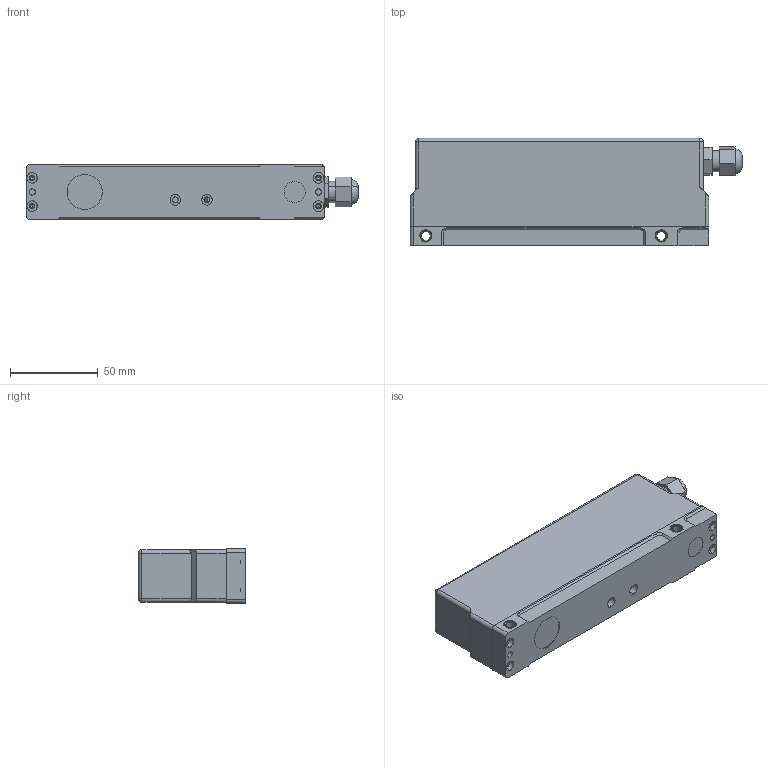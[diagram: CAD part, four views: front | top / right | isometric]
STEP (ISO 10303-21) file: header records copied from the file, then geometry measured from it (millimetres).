
FILE_DESCRIPTION (( 'STEP AP203' ), '1' );
FILE_NAME ('ÐÔ 600_DEMO.STEP', '2012-09-03T13:16:29', ( 'Serg' ), ( '' ), 'SwSTEP 2.0', 'SolidWorks 2012', '' );
FILE_SCHEMA (( 'CONFIG_CONTROL_DESIGN' ));
Length unit declared in the file: millimetre
Products named in the file (7): 俶.602.00.013; 俶.602.00.002; ïëàòà ñ ÏÇÑ New; RF603 ïëàòà; 俶.602.00.071 DEMO; 俶 600_DEMO; 佤瞁鍱
Assembly tree (9 placements, depth 2):
  俶 600_DEMO
    俶.602.00.071 DEMO
    RF603 ïëàòà
    ïëàòà ñ ÏÇÑ New
    俶.602.00.002  x4
    俶.602.00.013
    佤瞁鍱
Bounding box: 188.97 x 61 x 31 mm (x, y, z)
Volume: 104018.7 mm3; surface area: 72764.8 mm2
Topology: 9 solids, 9 shells, 339 faces, 839 edges, 532 vertices
Faces by surface type: plane 149, cylinder 134, cone 50, sphere 4, torus 2
Entity records: 9814 total; most frequent: DIRECTION 1615, CARTESIAN_POINT 1566, ORIENTED_EDGE 1486, EDGE_CURVE 743, AXIS2_PLACEMENT_3D 573, VERTEX_POINT 484, LINE 469, VECTOR 469
